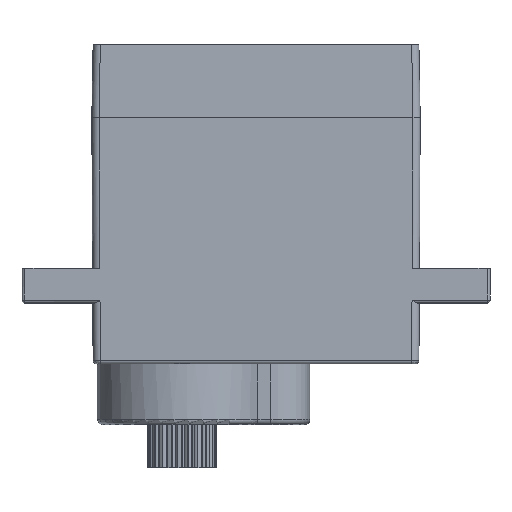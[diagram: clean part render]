
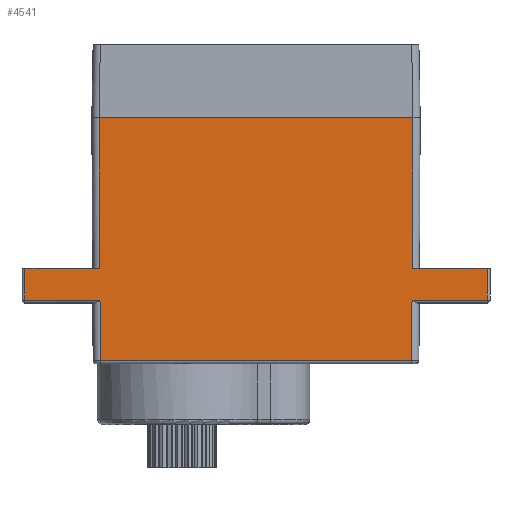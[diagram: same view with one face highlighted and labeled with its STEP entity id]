
A CAD part, front view. The second image highlights one B-rep face of the part: STEP entity #4541.
In plain terms, the highlighted planar face has unit normal (0, -1, -0.005).
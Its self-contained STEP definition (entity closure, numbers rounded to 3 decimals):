
#345=DIRECTION('',(1.,0.,0.));
#346=VECTOR('',#345,21.7);
#347=CARTESIAN_POINT('',(-10.85,-6.1,
0.));
#348=LINE('',#347,#346);
#357=DIRECTION('',(-0.005,0.005,-1.));
#358=VECTOR('',#357,4.2);
#359=CARTESIAN_POINT('',(10.784,-6.034,-12.601));
#360=LINE('',#359,#358);
#361=DIRECTION('',(0.005,0.005,-1.));
#362=VECTOR('',#361,4.2);
#363=CARTESIAN_POINT('',(-10.784,-6.034,
-12.601));
#364=LINE('',#363,#362);
#365=DIRECTION('',(-1.,0.,0.));
#366=VECTOR('',#365,5.191);
#367=CARTESIAN_POINT('',(-10.784,-6.034,
-12.601));
#368=LINE('',#367,#366);
#369=DIRECTION('',(0.,-0.005,1.));
#370=VECTOR('',#369,2.201);
#371=CARTESIAN_POINT('',(-15.975,-6.034,-12.601));
#372=LINE('',#371,#370);
#373=DIRECTION('',(-0.005,-0.005,1.));
#374=VECTOR('',#373,10.4);
#375=CARTESIAN_POINT('',(-10.796,-6.046,-10.4));
#376=LINE('',#375,#374);
#377=DIRECTION('',(0.005,-0.005,1.));
#378=VECTOR('',#377,10.4);
#379=CARTESIAN_POINT('',(10.796,-6.046,-10.4));
#380=LINE('',#379,#378);
#381=DIRECTION('',(0.,0.005,-1.));
#382=VECTOR('',#381,2.201);
#383=CARTESIAN_POINT('',(15.975,-6.046,-10.4));
#384=LINE('',#383,#382);
#385=DIRECTION('',(-1.,0.,0.));
#386=VECTOR('',#385,5.191);
#387=CARTESIAN_POINT('',(15.975,-6.034,-12.601));
#388=LINE('',#387,#386);
#577=DIRECTION('',(-1.,0.,0.));
#578=VECTOR('',#577,5.179);
#579=CARTESIAN_POINT('',(15.975,-6.046,-10.4));
#580=LINE('',#579,#578);
#602=DIRECTION('',(-1.,0.,0.));
#603=VECTOR('',#602,5.179);
#604=CARTESIAN_POINT('',(-10.796,-6.046,-10.4));
#605=LINE('',#604,#603);
#1090=DIRECTION('',(1.,0.,0.));
#1091=VECTOR('',#1090,21.524);
#1092=CARTESIAN_POINT('',(-10.762,-6.012,
-16.801));
#1093=LINE('',#1092,#1091);
#3823=CARTESIAN_POINT('',(10.784,-6.034,
-12.601));
#3824=CARTESIAN_POINT('',(10.762,-6.012,
-16.801));
#3825=VERTEX_POINT('',#3823);
#3826=VERTEX_POINT('',#3824);
#3835=CARTESIAN_POINT('',(10.85,-6.1,0.));
#3836=VERTEX_POINT('',#3835);
#3837=CARTESIAN_POINT('',(10.796,-6.046,-10.4));
#3838=VERTEX_POINT('',#3837);
#3863=CARTESIAN_POINT('',(-10.784,-6.034,
-12.601));
#3864=CARTESIAN_POINT('',(-10.762,-6.012,
-16.801));
#3865=VERTEX_POINT('',#3863);
#3866=VERTEX_POINT('',#3864);
#3877=CARTESIAN_POINT('',(-10.85,-6.1,
0.));
#3878=VERTEX_POINT('',#3877);
#3883=CARTESIAN_POINT('',(-10.796,-6.046,-10.4));
#3884=VERTEX_POINT('',#3883);
#3899=CARTESIAN_POINT('',(15.975,-6.046,-10.4));
#3900=VERTEX_POINT('',#3899);
#3903=CARTESIAN_POINT('',(-15.975,-6.046,-10.4));
#3904=VERTEX_POINT('',#3903);
#3910=CARTESIAN_POINT('',(15.975,-6.034,-12.601));
#3911=VERTEX_POINT('',#3910);
#3957=CARTESIAN_POINT('',(-15.975,-6.034,-12.601));
#3958=VERTEX_POINT('',#3957);
#4511=CARTESIAN_POINT('',(11.35,-6.1,0.));
#4512=DIRECTION('',(0.,-1.,-0.005));
#4513=DIRECTION('',(-1.,0.,0.));
#4514=AXIS2_PLACEMENT_3D('',#4511,#4512,#4513);
#4515=PLANE('',#4514);
#4517=ORIENTED_EDGE('',*,*,#4516,.T.);
#4519=ORIENTED_EDGE('',*,*,#4518,.F.);
#4521=ORIENTED_EDGE('',*,*,#4520,.F.);
#4523=ORIENTED_EDGE('',*,*,#4522,.T.);
#4525=ORIENTED_EDGE('',*,*,#4524,.T.);
#4527=ORIENTED_EDGE('',*,*,#4526,.F.);
#4529=ORIENTED_EDGE('',*,*,#4528,.T.);
#4530=ORIENTED_EDGE('',*,*,#4504,.T.);
#4532=ORIENTED_EDGE('',*,*,#4531,.F.);
#4534=ORIENTED_EDGE('',*,*,#4533,.F.);
#4536=ORIENTED_EDGE('',*,*,#4535,.T.);
#4538=ORIENTED_EDGE('',*,*,#4537,.T.);
#4539=EDGE_LOOP('',(#4517,#4519,#4521,#4523,#4525,#4527,#4529,#4530,#4532,#4534,
#4536,#4538));
#4540=FACE_OUTER_BOUND('',#4539,.F.);
#4541=ADVANCED_FACE('',(#4540),#4515,.T.);
#4504=EDGE_CURVE('',#3878,#3836,#348,.T.);
#4516=EDGE_CURVE('',#3825,#3826,#360,.T.);
#4518=EDGE_CURVE('',#3866,#3826,#1093,.T.);
#4520=EDGE_CURVE('',#3865,#3866,#364,.T.);
#4522=EDGE_CURVE('',#3865,#3958,#368,.T.);
#4524=EDGE_CURVE('',#3958,#3904,#372,.T.);
#4526=EDGE_CURVE('',#3884,#3904,#605,.T.);
#4528=EDGE_CURVE('',#3884,#3878,#376,.T.);
#4531=EDGE_CURVE('',#3838,#3836,#380,.T.);
#4533=EDGE_CURVE('',#3900,#3838,#580,.T.);
#4535=EDGE_CURVE('',#3900,#3911,#384,.T.);
#4537=EDGE_CURVE('',#3911,#3825,#388,.T.);
